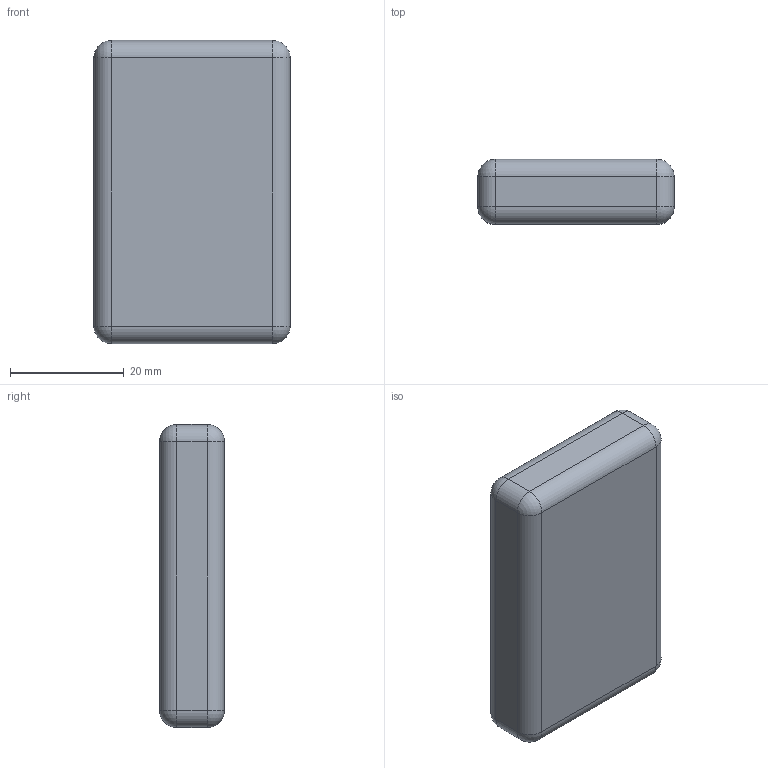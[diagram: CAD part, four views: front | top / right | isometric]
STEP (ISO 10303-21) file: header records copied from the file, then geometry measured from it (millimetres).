
FILE_DESCRIPTION(/* description */ ('STEP AP242 Edition 2','CAx-IF Rec.Pracs.---Representation and Presentation of Product Manufacturing Information (PMI)---4.0---2014-10-13','CAx-IF Rec.Pracs.---3D Tessellated Geometry---0.4---2014-09-14','2;1','CAx-IF Rec.Pracs.---User Defined Attributes---1.5---2016-08-15'),/* implementation_level */ '2;1');
FILE_NAME(/* name */ 'Assembly 1 - Part 1 (3)',/* time_stamp */ '2026-04-30T00:36:45Z',/* author */ (''),/* organization */ (''),/* preprocessor_version */ 'ST-DEVELOPER v20',/* originating_system */ 'ONSHAPE BY PTC INC, 1.214',/* authorisation */ ' ');
FILE_SCHEMA (('AP242_MANAGED_MODEL_BASED_3D_ENGINEERING_MIM_LF { 1 0 10303 442 3 1 4 }'));
Length unit declared in the file: metre
Products named in the file (1): Part 1
Bounding box: 34.54 x 11.43 x 53.34 mm (x, y, z)
Volume: 20297.8 mm3; surface area: 5160.8 mm2
Topology: 1 solids, 1 shells, 26 faces, 56 edges, 24 vertices
Faces by surface type: cylinder 12, sphere 8, plane 6
Entity records: 646 total; most frequent: DIRECTION 126, CARTESIAN_POINT 99, ORIENTED_EDGE 96, AXIS2_PLACEMENT_3D 51, EDGE_CURVE 48, EDGE_LOOP 26, FACE_BOUND 26, ADVANCED_FACE 26
